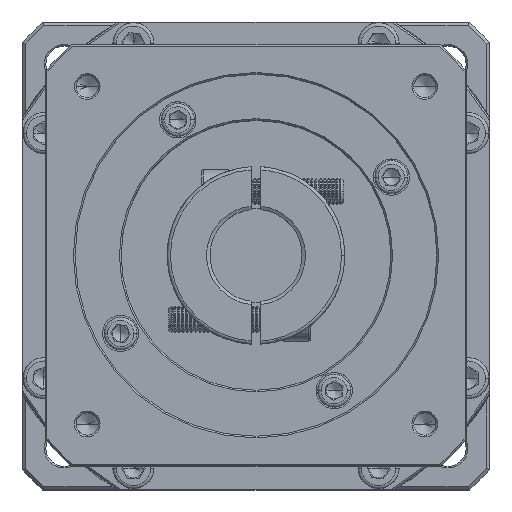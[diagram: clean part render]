
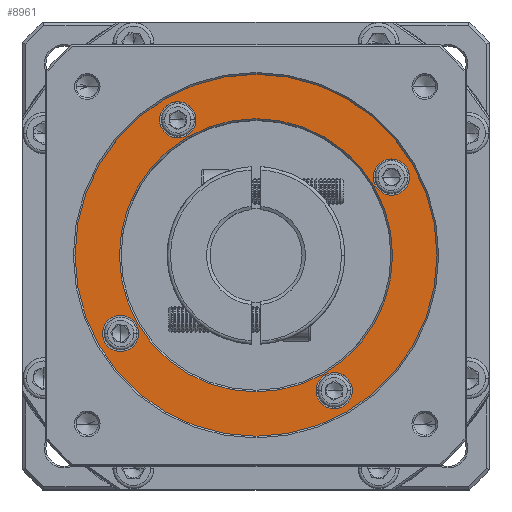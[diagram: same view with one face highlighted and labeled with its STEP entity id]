
A CAD part, top view. The second image highlights one B-rep face of the part: STEP entity #8961.
In plain terms, the highlighted planar face has unit normal (0, 0, 1).
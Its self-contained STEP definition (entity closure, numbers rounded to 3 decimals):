
#128 = DIRECTION ( 'NONE',  ( 0., 0., -1. ) ) ;
#180 = CARTESIAN_POINT ( 'NONE',  ( -31.554, 108.667, 11.263 ) ) ;
#939 = EDGE_CURVE ( 'NONE', #53858, #5152, #140944, .T. ) ;
#1280 = CARTESIAN_POINT ( 'NONE',  ( -101.94, 126.053, 11.263 ) ) ;
#1783 = ORIENTED_EDGE ( 'NONE', *, *, #16299, .T. ) ;
#2393 = DIRECTION ( 'NONE',  ( 0., 0., -1. ) ) ;
#3409 = CARTESIAN_POINT ( 'NONE',  ( -101.94, 126.053, 11.263 ) ) ;
#4657 = VERTEX_POINT ( 'NONE', #180 ) ;
#5152 = VERTEX_POINT ( 'NONE', #89870 ) ;
#7042 = DIRECTION ( 'NONE',  ( 0., 0., -1. ) ) ;
#8961 = ADVANCED_FACE ( 'NONE', ( #128862, #40047, #95791, #66262, #62783, #118376 ), #138453, .T. ) ;
#9286 = CIRCLE ( 'NONE', #43012, 5.5 ) ;
#10752 = CIRCLE ( 'NONE', #109993, 5.5 ) ;
#11423 = EDGE_CURVE ( 'NONE', #137254, #67794, #57482, .T. ) ;
#11564 = EDGE_LOOP ( 'NONE', ( #1783, #124248 ) ) ;
#15659 = DIRECTION ( 'NONE',  ( 1., 0., 0. ) ) ;
#16155 = DIRECTION ( 'NONE',  ( 0., 0., 1. ) ) ;
#16299 = EDGE_CURVE ( 'NONE', #93577, #25528, #116362, .T. ) ;
#18113 = EDGE_CURVE ( 'NONE', #5152, #53858, #98813, .T. ) ;
#19499 = DIRECTION ( 'NONE',  ( 0., 0., 1. ) ) ;
#19652 = ORIENTED_EDGE ( 'NONE', *, *, #80400, .T. ) ;
#19982 = DIRECTION ( 'NONE',  ( 1., 0., 0. ) ) ;
#22257 = EDGE_LOOP ( 'NONE', ( #61593, #44414 ) ) ;
#23766 = DIRECTION ( 'NONE',  ( 0., 0., -1. ) ) ;
#24804 = DIRECTION ( 'NONE',  ( 1., 0., 0. ) ) ;
#25174 = AXIS2_PLACEMENT_3D ( 'NONE', #59761, #92752, #15659 ) ;
#25355 = CARTESIAN_POINT ( 'NONE',  ( -78.19, 84.917, 11.263 ) ) ;
#25528 = VERTEX_POINT ( 'NONE', #28978 ) ;
#28221 = AXIS2_PLACEMENT_3D ( 'NONE', #76524, #65321, #121193 ) ;
#28978 = CARTESIAN_POINT ( 'NONE',  ( -119.69, 84.917, 11.263 ) ) ;
#29630 = CARTESIAN_POINT ( 'NONE',  ( -54.44, 43.78, 11.263 ) ) ;
#32763 = CIRCLE ( 'NONE', #25174, 41.5 ) ;
#33192 = EDGE_CURVE ( 'NONE', #47986, #66349, #135968, .T. ) ;
#39643 = DIRECTION ( 'NONE',  ( 1., 0., 0. ) ) ;
#40047 = FACE_BOUND ( 'NONE', #11564, .T. ) ;
#43012 = AXIS2_PLACEMENT_3D ( 'NONE', #124200, #2393, #113503 ) ;
#43299 = ORIENTED_EDGE ( 'NONE', *, *, #939, .T. ) ;
#44414 = ORIENTED_EDGE ( 'NONE', *, *, #11423, .T. ) ;
#46752 = CIRCLE ( 'NONE', #87092, 5.5 ) ;
#47986 = VERTEX_POINT ( 'NONE', #125292 ) ;
#49797 = CIRCLE ( 'NONE', #138487, 5.5 ) ;
#50707 = CARTESIAN_POINT ( 'NONE',  ( -36.69, 84.917, 11.263 ) ) ;
#53858 = VERTEX_POINT ( 'NONE', #83295 ) ;
#56228 = DIRECTION ( 'NONE',  ( 1., 0., 0. ) ) ;
#57008 = CARTESIAN_POINT ( 'NONE',  ( -113.826, 61.167, 11.263 ) ) ;
#57482 = CIRCLE ( 'NONE', #112435, 55. ) ;
#59380 = DIRECTION ( 'NONE',  ( 1., 0., 0. ) ) ;
#59761 = CARTESIAN_POINT ( 'NONE',  ( -78.19, 84.917, 11.263 ) ) ;
#61593 = ORIENTED_EDGE ( 'NONE', *, *, #111339, .T. ) ;
#62783 = FACE_BOUND ( 'NONE', #69684, .T. ) ;
#63215 = CARTESIAN_POINT ( 'NONE',  ( -37.054, 108.667, 11.263 ) ) ;
#63295 = DIRECTION ( 'NONE',  ( 1., 0., 0. ) ) ;
#65321 = DIRECTION ( 'NONE',  ( 0., 0., -1. ) ) ;
#66262 = FACE_BOUND ( 'NONE', #134833, .T. ) ;
#66349 = VERTEX_POINT ( 'NONE', #96473 ) ;
#67794 = VERTEX_POINT ( 'NONE', #104761 ) ;
#69250 = CARTESIAN_POINT ( 'NONE',  ( -54.44, 43.78, 11.263 ) ) ;
#69684 = EDGE_LOOP ( 'NONE', ( #128190, #108641 ) ) ;
#71018 = DIRECTION ( 'NONE',  ( 0., 0., -1. ) ) ;
#71731 = CARTESIAN_POINT ( 'NONE',  ( -124.826, 61.167, 11.263 ) ) ;
#72725 = AXIS2_PLACEMENT_3D ( 'NONE', #29630, #7042, #63295 ) ;
#74409 = AXIS2_PLACEMENT_3D ( 'NONE', #3409, #122773, #56228 ) ;
#74423 = CARTESIAN_POINT ( 'NONE',  ( -133.19, 84.917, 11.263 ) ) ;
#74715 = CARTESIAN_POINT ( 'NONE',  ( -119.326, 61.167, 11.263 ) ) ;
#76256 = VERTEX_POINT ( 'NONE', #129159 ) ;
#76524 = CARTESIAN_POINT ( 'NONE',  ( -78.19, 84.917, 11.263 ) ) ;
#79325 = AXIS2_PLACEMENT_3D ( 'NONE', #1280, #23766, #79393 ) ;
#79393 = DIRECTION ( 'NONE',  ( 1., 0., 0. ) ) ;
#80400 = EDGE_CURVE ( 'NONE', #94985, #135407, #10752, .T. ) ;
#83295 = CARTESIAN_POINT ( 'NONE',  ( -48.94, 43.78, 11.263 ) ) ;
#83591 = EDGE_CURVE ( 'NONE', #135407, #94985, #46752, .T. ) ;
#84516 = CARTESIAN_POINT ( 'NONE',  ( -78.19, 84.917, 11.263 ) ) ;
#86848 = DIRECTION ( 'NONE',  ( 0., 0., -1. ) ) ;
#87092 = AXIS2_PLACEMENT_3D ( 'NONE', #74715, #86848, #19982 ) ;
#87477 = CIRCLE ( 'NONE', #128709, 55. ) ;
#87705 = CIRCLE ( 'NONE', #74409, 5.5 ) ;
#88179 = AXIS2_PLACEMENT_3D ( 'NONE', #69250, #134816, #24804 ) ;
#89870 = CARTESIAN_POINT ( 'NONE',  ( -59.94, 43.78, 11.263 ) ) ;
#92752 = DIRECTION ( 'NONE',  ( 0., 0., -1. ) ) ;
#93577 = VERTEX_POINT ( 'NONE', #50707 ) ;
#94958 = EDGE_CURVE ( 'NONE', #76256, #4657, #9286, .T. ) ;
#94985 = VERTEX_POINT ( 'NONE', #71731 ) ;
#95077 = EDGE_LOOP ( 'NONE', ( #132309, #19652 ) ) ;
#95791 = FACE_BOUND ( 'NONE', #109446, .T. ) ;
#96473 = CARTESIAN_POINT ( 'NONE',  ( -96.44, 126.053, 11.263 ) ) ;
#97545 = ORIENTED_EDGE ( 'NONE', *, *, #18113, .T. ) ;
#97666 = EDGE_CURVE ( 'NONE', #4657, #76256, #49797, .T. ) ;
#98429 = DIRECTION ( 'NONE',  ( 1., 0., 0. ) ) ;
#98813 = CIRCLE ( 'NONE', #88179, 5.5 ) ;
#98828 = EDGE_CURVE ( 'NONE', #66349, #47986, #87705, .T. ) ;
#100422 = ORIENTED_EDGE ( 'NONE', *, *, #94958, .T. ) ;
#104761 = CARTESIAN_POINT ( 'NONE',  ( -23.19, 84.917, 11.263 ) ) ;
#108641 = ORIENTED_EDGE ( 'NONE', *, *, #33192, .T. ) ;
#109446 = EDGE_LOOP ( 'NONE', ( #114753, #100422 ) ) ;
#109993 = AXIS2_PLACEMENT_3D ( 'NONE', #114742, #71018, #59380 ) ;
#111339 = EDGE_CURVE ( 'NONE', #67794, #137254, #87477, .T. ) ;
#112435 = AXIS2_PLACEMENT_3D ( 'NONE', #131071, #19499, #98429 ) ;
#113004 = DIRECTION ( 'NONE',  ( 1., 0., 0. ) ) ;
#113503 = DIRECTION ( 'NONE',  ( 1., 0., 0. ) ) ;
#114742 = CARTESIAN_POINT ( 'NONE',  ( -119.326, 61.167, 11.263 ) ) ;
#114753 = ORIENTED_EDGE ( 'NONE', *, *, #97666, .T. ) ;
#116362 = CIRCLE ( 'NONE', #28221, 41.5 ) ;
#118376 = FACE_BOUND ( 'NONE', #95077, .T. ) ;
#121193 = DIRECTION ( 'NONE',  ( 1., 0., 0. ) ) ;
#122773 = DIRECTION ( 'NONE',  ( 0., 0., -1. ) ) ;
#124200 = CARTESIAN_POINT ( 'NONE',  ( -37.054, 108.667, 11.263 ) ) ;
#124248 = ORIENTED_EDGE ( 'NONE', *, *, #131031, .T. ) ;
#125292 = CARTESIAN_POINT ( 'NONE',  ( -107.44, 126.053, 11.263 ) ) ;
#126884 = AXIS2_PLACEMENT_3D ( 'NONE', #84516, #16155, #39643 ) ;
#128190 = ORIENTED_EDGE ( 'NONE', *, *, #98828, .T. ) ;
#128709 = AXIS2_PLACEMENT_3D ( 'NONE', #25355, #134898, #113004 ) ;
#128862 = FACE_OUTER_BOUND ( 'NONE', #22257, .T. ) ;
#129159 = CARTESIAN_POINT ( 'NONE',  ( -42.554, 108.667, 11.263 ) ) ;
#131031 = EDGE_CURVE ( 'NONE', #25528, #93577, #32763, .T. ) ;
#131071 = CARTESIAN_POINT ( 'NONE',  ( -78.19, 84.917, 11.263 ) ) ;
#132309 = ORIENTED_EDGE ( 'NONE', *, *, #83591, .T. ) ;
#133693 = DIRECTION ( 'NONE',  ( 1., 0., 0. ) ) ;
#134816 = DIRECTION ( 'NONE',  ( 0., 0., -1. ) ) ;
#134833 = EDGE_LOOP ( 'NONE', ( #43299, #97545 ) ) ;
#134898 = DIRECTION ( 'NONE',  ( 0., 0., 1. ) ) ;
#135407 = VERTEX_POINT ( 'NONE', #57008 ) ;
#135968 = CIRCLE ( 'NONE', #79325, 5.5 ) ;
#137254 = VERTEX_POINT ( 'NONE', #74423 ) ;
#138453 = PLANE ( 'NONE',  #126884 ) ;
#138487 = AXIS2_PLACEMENT_3D ( 'NONE', #63215, #128, #133693 ) ;
#140944 = CIRCLE ( 'NONE', #72725, 5.5 ) ;
